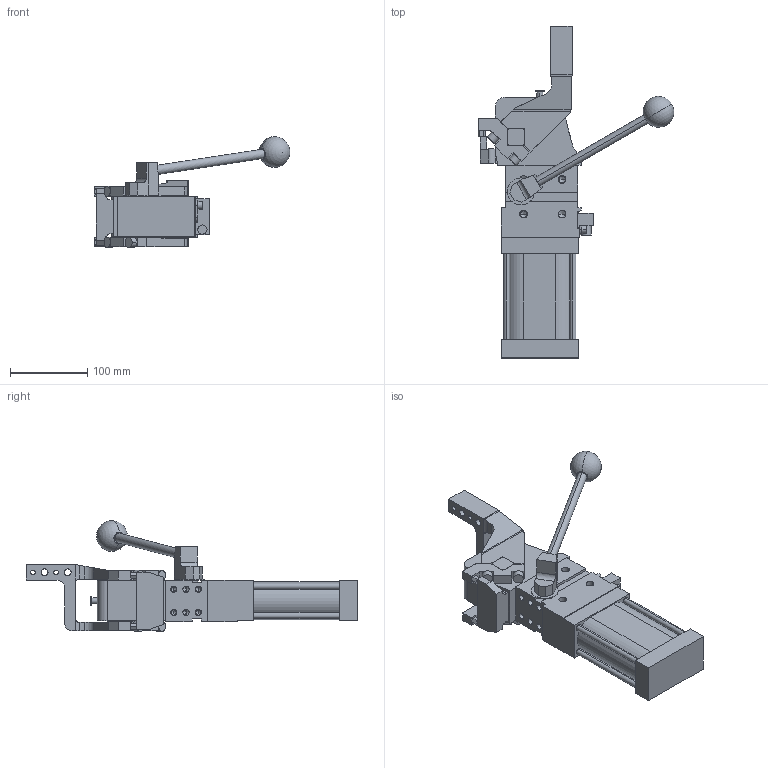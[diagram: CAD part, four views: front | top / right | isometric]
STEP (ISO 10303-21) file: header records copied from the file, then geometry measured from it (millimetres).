
FILE_DESCRIPTION (( 'STEP AP214' ), '1' );
FILE_NAME ('cplm63lath3ssi1g_75.STEP', '2023-01-26T15:09:37', ( '' ), ( '' ), 'SwSTEP 2.0', 'SolidWorks 2022', '' );
FILE_SCHEMA (( 'AUTOMOTIVE_DESIGN' ));
Length unit declared in the file: millimetre
Products named in the file (5): blocchetto_VEP_0; leva_h3ss_cpl63t; meccanica_cplm_63_tassello_esterno; comando_manuale_cplm_63; cplm63lath3ssi1g_75
Assembly tree (4 placements, depth 2):
  cplm63lath3ssi1g_75
    meccanica_cplm_63_tassello_esterno
    blocchetto_VEP_0
    leva_h3ss_cpl63t
    comando_manuale_cplm_63
Bounding box: 254.06 x 430.5 x 143.5 mm (x, y, z)
Volume: 1931771.6 mm3; surface area: 221360.8 mm2
Topology: 4 solids, 4 shells, 469 faces, 1239 edges, 773 vertices
Faces by surface type: plane 250, cylinder 167, cone 50, sphere 2
Entity records: 15764 total; most frequent: CARTESIAN_POINT 2534, DIRECTION 2493, ORIENTED_EDGE 2376, EDGE_CURVE 1188, AXIS2_PLACEMENT_3D 843, VECTOR 807, LINE 807, VERTEX_POINT 770
